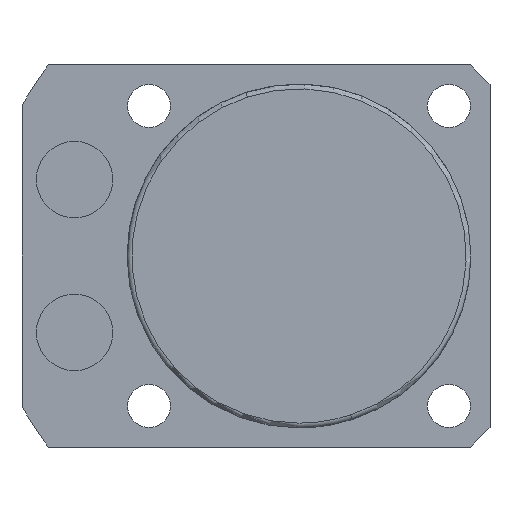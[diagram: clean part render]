
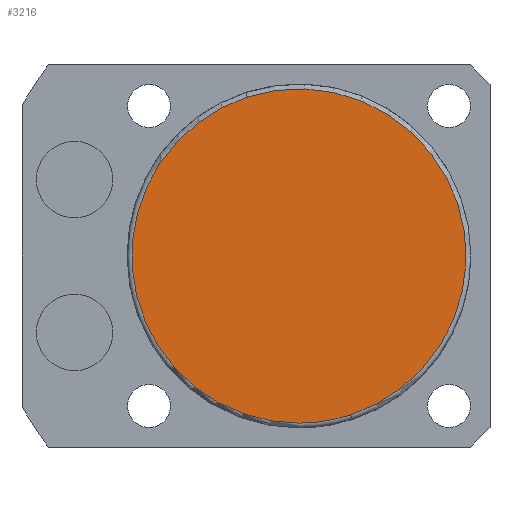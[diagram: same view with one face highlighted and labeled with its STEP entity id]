
A CAD part, front view. The second image highlights one B-rep face of the part: STEP entity #3216.
In plain terms, the highlighted planar face has unit normal (0, -1, 0).
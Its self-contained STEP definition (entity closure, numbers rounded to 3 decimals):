
#3182=CARTESIAN_POINT('',(0.0,-65.5,-17.5));
#3183=VERTEX_POINT('',#3182);
#3184=CARTESIAN_POINT('',(5.408,-65.5,-16.643));
#3185=VERTEX_POINT('',#3184);
#3186=CARTESIAN_POINT('',(0.0,-65.5,0.0));
#3187=DIRECTION('',(0.0,-1.0,0.0));
#3188=DIRECTION('',(0.0,0.0,-1.0));
#3189=AXIS2_PLACEMENT_3D('',#3186,#3187,#3188);
#3190=CIRCLE('',#3189,17.5);
#3191=EDGE_CURVE('no 2427',#3183,#3185,#3190,.T.);
#3192=ORIENTED_EDGE('',*,*,#3191,.T.);
#3193=CARTESIAN_POINT('',(-5.408,-65.5,16.643));
#3194=VERTEX_POINT('',#3193);
#3195=CARTESIAN_POINT('',(0.0,-65.5,0.0));
#3196=DIRECTION('',(0.0,-1.0,0.0));
#3197=DIRECTION('',(0.0,0.0,-1.0));
#3198=AXIS2_PLACEMENT_3D('',#3195,#3196,#3197);
#3199=CIRCLE('',#3198,17.5);
#3200=EDGE_CURVE('no 2433',#3185,#3194,#3199,.T.);
#3201=ORIENTED_EDGE('',*,*,#3200,.T.);
#3202=CARTESIAN_POINT('',(0.0,-65.5,0.0));
#3203=DIRECTION('',(0.0,-1.0,0.0));
#3204=DIRECTION('',(0.0,0.0,-1.0));
#3205=AXIS2_PLACEMENT_3D('',#3202,#3203,#3204);
#3206=CIRCLE('',#3205,17.5);
#3207=EDGE_CURVE('no 2437',#3194,#3183,#3206,.T.);
#3208=ORIENTED_EDGE('',*,*,#3207,.T.);
#3209=EDGE_LOOP('',(#3192,#3201,#3208));
#3210=FACE_OUTER_BOUND('',#3209,.T.);
#3211=CARTESIAN_POINT('',(0.0,-65.5,0.0));
#3212=DIRECTION('',(0.0,-1.0,0.0));
#3213=DIRECTION('',(0.0,0.0,-1.0));
#3214=AXIS2_PLACEMENT_3D('',#3211,#3212,#3213);
#3215=PLANE('',#3214);
#3216=ADVANCED_FACE('no 2418',(#3210),#3215,.T.);
